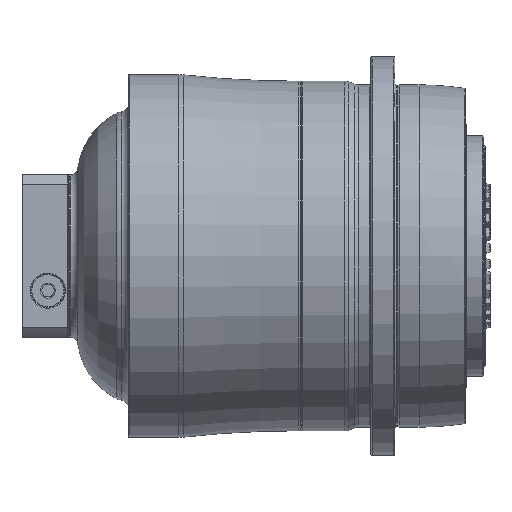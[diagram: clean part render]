
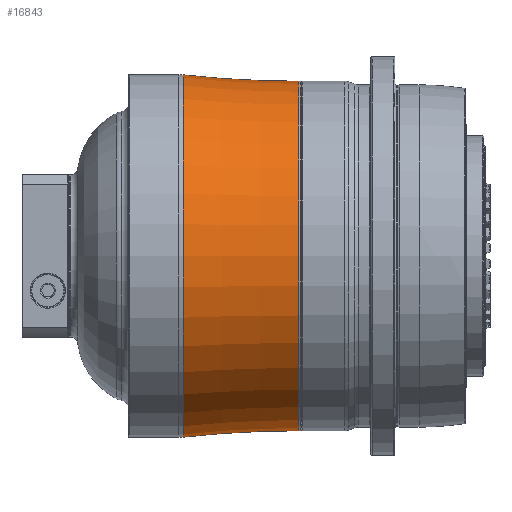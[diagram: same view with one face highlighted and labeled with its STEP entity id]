
A CAD part, top view. The second image highlights one B-rep face of the part: STEP entity #16843.
In plain terms, the highlighted toroidal (fillet/blend) face has major radius 1021.34 mm and minor radius 875.841 mm.
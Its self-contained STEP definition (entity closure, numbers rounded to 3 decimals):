
#16373=CARTESIAN_POINT('',(-95.396,0.,0.));
#16374=DIRECTION('',(1.,0.,0.));
#16375=DIRECTION('',(0.,1.,0.));
#16376=AXIS2_PLACEMENT_3D('',#16373,#16374,#16375);
#16378=CARTESIAN_POINT('',(-191.5,0.,0.));
#16379=DIRECTION('',(1.,0.,0.));
#16380=DIRECTION('',(0.,1.,0.));
#16381=AXIS2_PLACEMENT_3D('',#16378,#16379,#16380);
#16388=CARTESIAN_POINT('',(-191.5,1021.341,0.));
#16389=DIRECTION('',(0.,0.,1.));
#16390=DIRECTION('',(0.,-1.,0.));
#16391=AXIS2_PLACEMENT_3D('',#16388,#16389,#16390);
#16398=CARTESIAN_POINT('',(-191.5,-1021.341,0.));
#16399=DIRECTION('',(0.,0.,-1.));
#16400=DIRECTION('',(0.,1.,0.));
#16401=AXIS2_PLACEMENT_3D('',#16398,#16399,#16400);
#16457=CARTESIAN_POINT('',(-191.5,145.5,0.));
#16458=VERTEX_POINT('',#16457);
#16459=CARTESIAN_POINT('',(-191.5,-145.5,0.));
#16460=VERTEX_POINT('',#16459);
#16497=CARTESIAN_POINT('',(-95.396,150.789,
0.));
#16498=CARTESIAN_POINT('',(-95.396,-150.789,0.));
#16499=VERTEX_POINT('',#16497);
#16500=VERTEX_POINT('',#16498);
#16829=CARTESIAN_POINT('',(-191.5,0.,0.));
#16830=DIRECTION('',(1.,0.,0.));
#16831=DIRECTION('',(0.,-1.,0.));
#16832=AXIS2_PLACEMENT_3D('',#16829,#16830,#16831);
#16833=TOROIDAL_SURFACE('',#16832,1021.341,875.841);
#16834=ORIENTED_EDGE('',*,*,#16823,.T.);
#16836=ORIENTED_EDGE('',*,*,#16835,.F.);
#16838=ORIENTED_EDGE('',*,*,#16837,.F.);
#16840=ORIENTED_EDGE('',*,*,#16839,.T.);
#16841=EDGE_LOOP('',(#16834,#16836,#16838,#16840));
#16842=FACE_OUTER_BOUND('',#16841,.F.);
#16843=ADVANCED_FACE('',(#16842),#16833,.F.);
#16377=CIRCLE('',#16376,150.789);
#16382=CIRCLE('',#16381,145.5);
#16392=CIRCLE('',#16391,875.841);
#16402=CIRCLE('',#16401,875.841);
#16823=EDGE_CURVE('',#16499,#16500,#16377,.T.);
#16835=EDGE_CURVE('',#16460,#16500,#16402,.T.);
#16837=EDGE_CURVE('',#16458,#16460,#16382,.T.);
#16839=EDGE_CURVE('',#16458,#16499,#16392,.T.);
